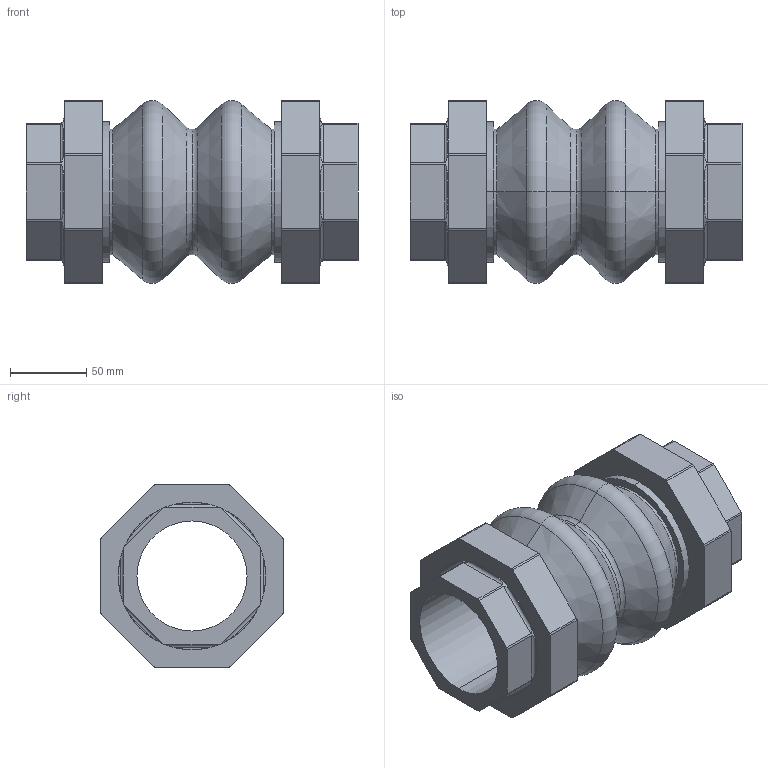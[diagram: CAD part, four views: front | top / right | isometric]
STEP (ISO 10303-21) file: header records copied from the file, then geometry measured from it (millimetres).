
FILE_DESCRIPTION (( 'STEP AP214' ), '1' );
FILE_NAME ('T8_DN065.STEP', '2012-10-31T13:30:01', ( 'luca.saino' ), ( 'Hewlett-Packard Company' ), 'SwSTEP 2.0', 'SolidWorks 2012', '' );
FILE_SCHEMA (( 'AUTOMOTIVE_DESIGN' ));
Length unit declared in the file: millimetre
Products named in the file (1): T8_DN065
Bounding box: 218 x 120 x 120 mm (x, y, z)
Volume: 752851.2 mm3; surface area: 172533.3 mm2
Topology: 1 solids, 1 shells, 140 faces, 356 edges, 224 vertices
Faces by surface type: plane 56, cylinder 48, torus 20, cone 16
Entity records: 4750 total; most frequent: CARTESIAN_POINT 1269, DIRECTION 754, ORIENTED_EDGE 712, EDGE_CURVE 356, AXIS2_PLACEMENT_3D 289, VERTEX_POINT 224, VECTOR 176, LINE 176
